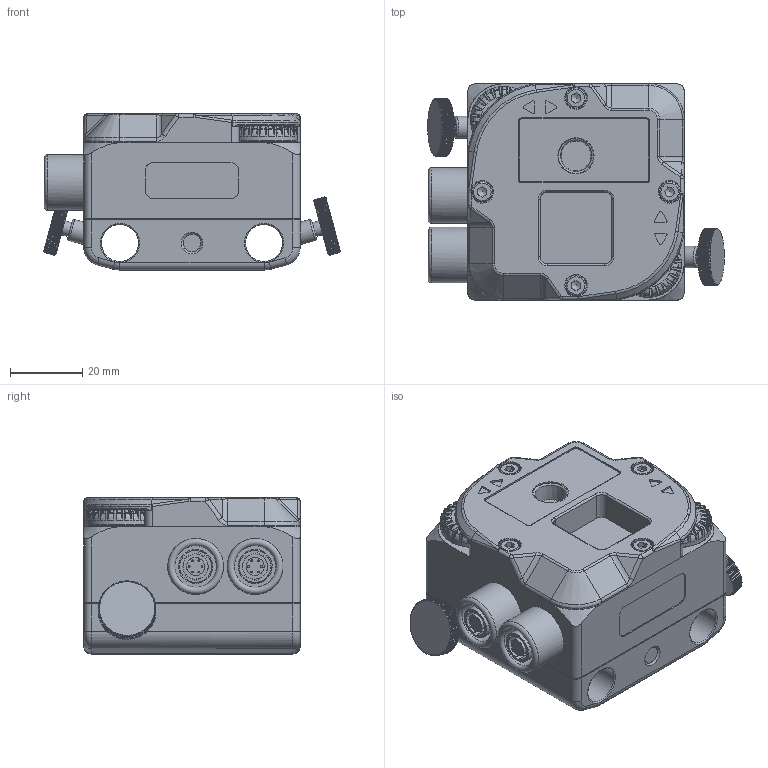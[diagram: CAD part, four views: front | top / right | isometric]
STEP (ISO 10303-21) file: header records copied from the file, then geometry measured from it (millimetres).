
FILE_DESCRIPTION(/* description */ (''),/* implementation_level */ '2;1');
FILE_NAME(/* name */ 'LM-9936-0702 S UNIT.stp',/* time_stamp */ '2021-03-08T14:36:39+00:00',/* author */ (''),/* organization */ (''),/* preprocessor_version */ 'ST-DEVELOPER v16.7',/* originating_system */ 'SIEMENS PLM Software NX 1942',/* authorisation */ '');
FILE_SCHEMA (('AUTOMOTIVE_DESIGN { 1 0 10303 214 3 1 1 1 }'));
Products named in the file (1): LM-9936-0702-A_S UNIT
Bounding box: 82.31 x 60 x 43.3 mm (x, y, z)
Volume: 138874.3 mm3; surface area: 27335.7 mm2
Topology: 1 solids, 1 shells, 2248 faces, 5832 edges, 3471 vertices
Faces by surface type: plane 768, bspline 608, cylinder 599, torus 249, cone 24
Full cylindrical faces by diameter (mm): 0.5 x12, 4 x2, 4.917 x1, 5 x2, 5.5 x4, 5.95 x2, 6 x2, 6.05 x2, 6.1 x4, 7 x2, 8.85 x2, 10 x1, 10.3 x2, 11.5 x2, 14 x2, 15 x1, 15.5 x2, 18.5 x2
Entity records: 98148 total; most frequent: CARTESIAN_POINT 44903, ORIENTED_EDGE 11092, EDGE_CURVE 5546, B_SPLINE_CURVE_WITH_KNOTS 5534, VERTEX_POINT 3450, DIRECTION 3302, EDGE_LOOP 2401, ADVANCED_FACE 2248
